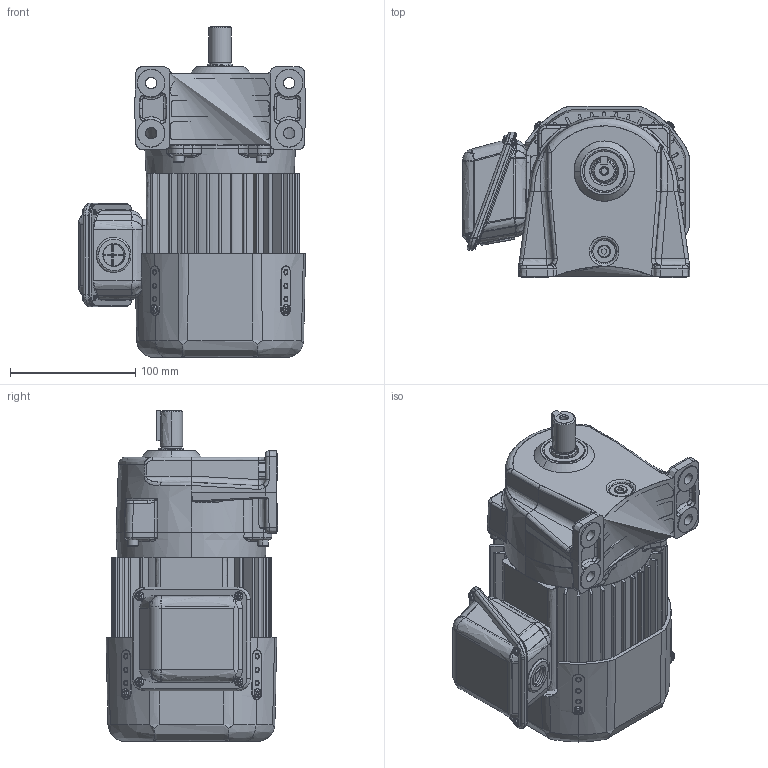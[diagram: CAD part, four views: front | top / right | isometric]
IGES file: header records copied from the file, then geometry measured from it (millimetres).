
Start section: SolidWorks IGES file using analytic representation for surfaces
Global section: file name: \\100.100.100.8\1_共有作業フォルダ\1-5_３Ｄデータ\solidworks\personal-folder\H.Nagayama\SGP1外形\P1(3D)\igs\TMLB2-01-(5~50).IGS; native system: SolidWorks 2018; preprocessor: SolidWorks 2018; author: sigma-giken; date: 200612.112954; units: millimetre
Bounding box: 181.18 x 137.03 x 263.6 mm (x, y, z)
Surface area: 382329.3 mm2 (no closed solid volume)
Topology: 0 solids, 0 shells, 1917 faces, 24385 edges, 24321 vertices
Faces by surface type: bspline 990, revolution 927
